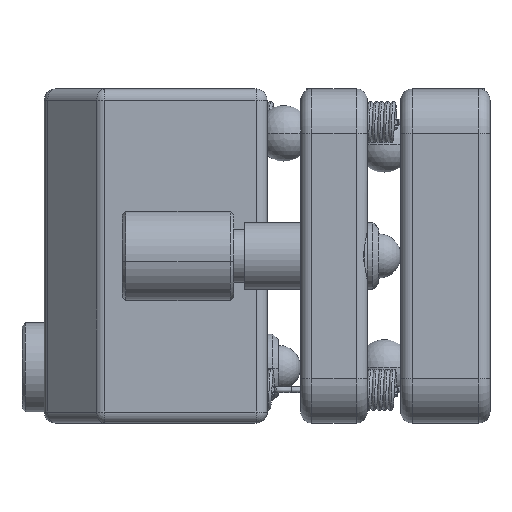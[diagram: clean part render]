
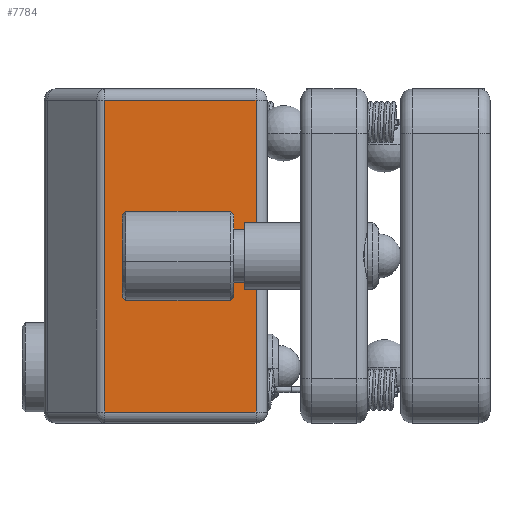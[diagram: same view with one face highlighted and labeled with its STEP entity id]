
A CAD part, left-side view. The second image highlights one B-rep face of the part: STEP entity #7784.
In plain terms, the highlighted planar face has unit normal (-1, 0, 0).
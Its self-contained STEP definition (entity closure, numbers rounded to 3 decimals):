
#137 = EDGE_LOOP ( 'NONE', ( #7402, #6560, #6801, #11683 ) ) ;
#455 = DIRECTION ( 'NONE',  ( 1., 0., 0. ) ) ;
#479 = LINE ( 'NONE', #20222, #4179 ) ;
#674 = DIRECTION ( 'NONE',  ( 0., 0., -1. ) ) ;
#2435 = FACE_OUTER_BOUND ( 'NONE', #137, .T. ) ;
#3907 = CARTESIAN_POINT ( 'NONE',  ( -11.5, 17., -14. ) ) ;
#4179 = VECTOR ( 'NONE', #24336, 1000. ) ;
#4994 = VECTOR ( 'NONE', #8109, 1000. ) ;
#5035 = EDGE_CURVE ( 'NONE', #9855, #22022, #15163, .T. ) ;
#6241 = PLANE ( 'NONE',  #20407 ) ;
#6560 = ORIENTED_EDGE ( 'NONE', *, *, #15742, .T. ) ;
#6801 = ORIENTED_EDGE ( 'NONE', *, *, #5035, .T. ) ;
#7242 = CARTESIAN_POINT ( 'NONE',  ( -11.5, 30.586, 14. ) ) ;
#7402 = ORIENTED_EDGE ( 'NONE', *, *, #19875, .T. ) ;
#7531 = CARTESIAN_POINT ( 'NONE',  ( -11.5, 17., 14. ) ) ;
#7784 = ADVANCED_FACE ( 'NONE', ( #2435 ), #6241, .F. ) ;
#8109 = DIRECTION ( 'NONE',  ( 0., 1., 0. ) ) ;
#9132 = LINE ( 'NONE', #13640, #23322 ) ;
#9855 = VERTEX_POINT ( 'NONE', #7531 ) ;
#11683 = ORIENTED_EDGE ( 'NONE', *, *, #17097, .T. ) ;
#12446 = CARTESIAN_POINT ( 'NONE',  ( -11.5, 36., 15. ) ) ;
#13640 = CARTESIAN_POINT ( 'NONE',  ( -11.5, 17., 14. ) ) ;
#14422 = DIRECTION ( 'NONE',  ( 0., -1., 0. ) ) ;
#14753 = VECTOR ( 'NONE', #674, 1000. ) ;
#15163 = LINE ( 'NONE', #15832, #4994 ) ;
#15742 = EDGE_CURVE ( 'NONE', #18706, #9855, #9132, .T. ) ;
#15832 = CARTESIAN_POINT ( 'NONE',  ( -11.5, 36., 14. ) ) ;
#17097 = EDGE_CURVE ( 'NONE', #22022, #25515, #17191, .T. ) ;
#17191 = LINE ( 'NONE', #18402, #14753 ) ;
#18402 = CARTESIAN_POINT ( 'NONE',  ( -11.5, 30.586, -15. ) ) ;
#18706 = VERTEX_POINT ( 'NONE', #3907 ) ;
#19875 = EDGE_CURVE ( 'NONE', #25515, #18706, #479, .T. ) ;
#20222 = CARTESIAN_POINT ( 'NONE',  ( -11.5, 36., -14. ) ) ;
#20407 = AXIS2_PLACEMENT_3D ( 'NONE', #12446, #455, #14422 ) ;
#21184 = DIRECTION ( 'NONE',  ( 0., 0., 1. ) ) ;
#22022 = VERTEX_POINT ( 'NONE', #7242 ) ;
#23322 = VECTOR ( 'NONE', #21184, 1000. ) ;
#24336 = DIRECTION ( 'NONE',  ( 0., -1., 0. ) ) ;
#24804 = CARTESIAN_POINT ( 'NONE',  ( -11.5, 30.586, -14. ) ) ;
#25515 = VERTEX_POINT ( 'NONE', #24804 ) ;
